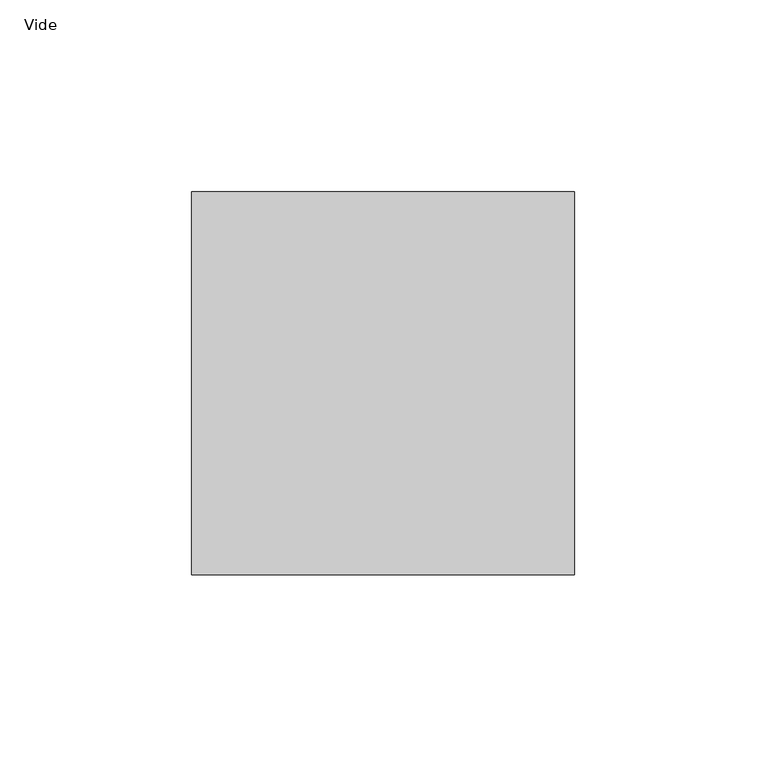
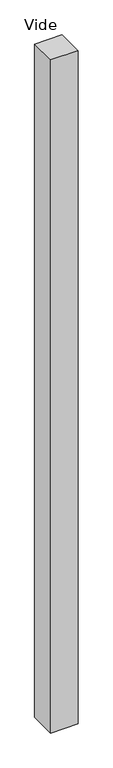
"""IFC4 building model written with IfcOpenShell, lengths in millimetres: plate geometry, Panneau système vide : Vide."""

from ifc_helpers import new_model, si_unit, origin, origin_with_axes, place, context, project, spatial, polyline, outline, extrude, source, transform, mapped, element, save


def vide_2859bd23(model_context):
    return source(origin(), model_context, "Body", "SweptSolid", [
        extrude(outline(polyline([(50.0, 50.0), (-50.0, 50.0), (-50.0, 150.0), (50.0, 150.0), (50.0, 50.0)])), origin_with_axes(), (0.0, 0.0, 1.0), 2588.190451),
    ])


if __name__ == "__main__":
    model = new_model("IFC4")
    model_context = context("Model", 3, world=origin())
    ifc_project = project(units=[si_unit("LENGTHUNIT", "METRE", prefix="MILLI")], contexts=[model_context])
    site = spatial("IfcSite", under=ifc_project)
    building = spatial("IfcBuilding", under=site)
    placement = place(None, origin())
    vide_shape = vide_2859bd23(model_context)
    element("IfcPlate", 1, ObjectType="Panneau système vide : Vide", at=placement, inside=building, context=model_context, shape_type="MappedRepresentation", body=[
        mapped(vide_shape, transform((0.0, 0.0, 0.0), x_axis=(1.0, 0.0, 0.0), y_axis=(0.0, 1.0, 0.0), z_axis=(0.0, 0.0, 1.0))),
    ])
    save(model, "model.ifc")
